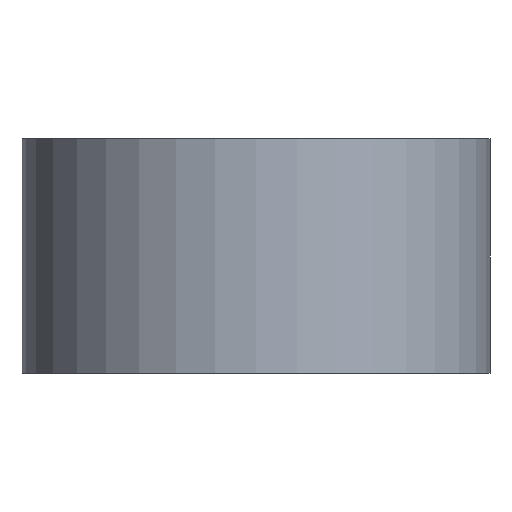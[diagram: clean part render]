
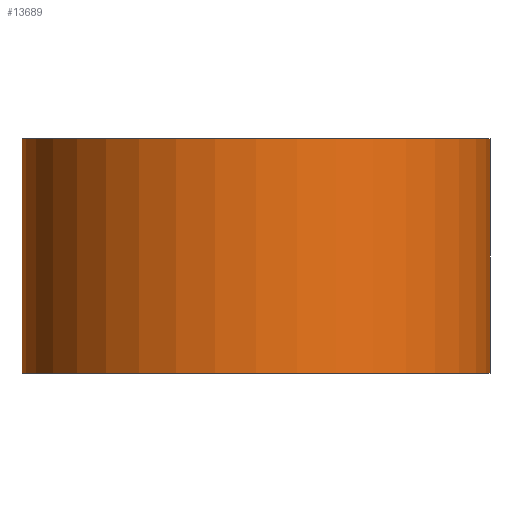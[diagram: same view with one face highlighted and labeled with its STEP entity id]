
A CAD part, front view. The second image highlights one B-rep face of the part: STEP entity #13689.
In plain terms, the highlighted cylindrical face has radius 12.696 mm (diameter 25.392 mm), a partial arc.
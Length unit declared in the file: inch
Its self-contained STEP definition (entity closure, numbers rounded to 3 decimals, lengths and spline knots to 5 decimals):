
#688 = EDGE_CURVE ( 'NONE', #19299, #21872, #7740, .T. ) ;
#1862 = EDGE_CURVE ( 'NONE', #13233, #12664, #4082, .T. ) ;
#2273 = DIRECTION ( 'NONE',  ( 0., 0., 1. ) ) ;
#2423 = DIRECTION ( 'NONE',  ( 0., 0., -1. ) ) ;
#4082 = CIRCLE ( 'NONE', #12697, 0.49985 ) ;
#4514 = AXIS2_PLACEMENT_3D ( 'NONE', #10268, #6745, #13701 ) ;
#4523 = AXIS2_PLACEMENT_3D ( 'NONE', #22130, #10185, #18965 ) ;
#5242 = CYLINDRICAL_SURFACE ( 'NONE', #4523, 0.49985 ) ;
#5773 = CARTESIAN_POINT ( 'NONE',  ( 0., 0., 0. ) ) ;
#5978 = LINE ( 'NONE', #21411, #9448 ) ;
#6632 = ORIENTED_EDGE ( 'NONE', *, *, #688, .F. ) ;
#6745 = DIRECTION ( 'NONE',  ( 0., 0., 1. ) ) ;
#7480 = CARTESIAN_POINT ( 'NONE',  ( 0.49985, 0., 0.5 ) ) ;
#7569 = ORIENTED_EDGE ( 'NONE', *, *, #22162, .F. ) ;
#7740 = CIRCLE ( 'NONE', #4514, 0.49985 ) ;
#9448 = VECTOR ( 'NONE', #2423, 39.37008 ) ;
#10136 = ORIENTED_EDGE ( 'NONE', *, *, #21403, .T. ) ;
#10185 = DIRECTION ( 'NONE',  ( 0., 0., -1. ) ) ;
#10268 = CARTESIAN_POINT ( 'NONE',  ( 0., 0., 0.5 ) ) ;
#12186 = CARTESIAN_POINT ( 'NONE',  ( -0.49985, 0., 0.5 ) ) ;
#12664 = VERTEX_POINT ( 'NONE', #12898 ) ;
#12697 = AXIS2_PLACEMENT_3D ( 'NONE', #5773, #2273, #17631 ) ;
#12898 = CARTESIAN_POINT ( 'NONE',  ( 0.49985, 0., 0. ) ) ;
#13233 = VERTEX_POINT ( 'NONE', #18993 ) ;
#13689 = ADVANCED_FACE ( 'NONE', ( #21371 ), #5242, .T. ) ;
#13701 = DIRECTION ( 'NONE',  ( 1., 0., 0. ) ) ;
#15086 = VECTOR ( 'NONE', #20567, 39.37008 ) ;
#17631 = DIRECTION ( 'NONE',  ( 1., 0., 0. ) ) ;
#18596 = CARTESIAN_POINT ( 'NONE',  ( 0.49985, 0., 0.5 ) ) ;
#18965 = DIRECTION ( 'NONE',  ( -1., 0., 0. ) ) ;
#18993 = CARTESIAN_POINT ( 'NONE',  ( -0.49985, 0., 0. ) ) ;
#19299 = VERTEX_POINT ( 'NONE', #12186 ) ;
#19471 = ORIENTED_EDGE ( 'NONE', *, *, #1862, .T. ) ;
#19671 = LINE ( 'NONE', #18596, #15086 ) ;
#20567 = DIRECTION ( 'NONE',  ( 0., 0., -1. ) ) ;
#21011 = EDGE_LOOP ( 'NONE', ( #7569, #6632, #10136, #19471 ) ) ;
#21371 = FACE_OUTER_BOUND ( 'NONE', #21011, .T. ) ;
#21403 = EDGE_CURVE ( 'NONE', #19299, #13233, #5978, .T. ) ;
#21411 = CARTESIAN_POINT ( 'NONE',  ( -0.49985, 0., 0.5 ) ) ;
#21872 = VERTEX_POINT ( 'NONE', #7480 ) ;
#22130 = CARTESIAN_POINT ( 'NONE',  ( 0., 0., 0.5 ) ) ;
#22162 = EDGE_CURVE ( 'NONE', #21872, #12664, #19671, .T. ) ;
